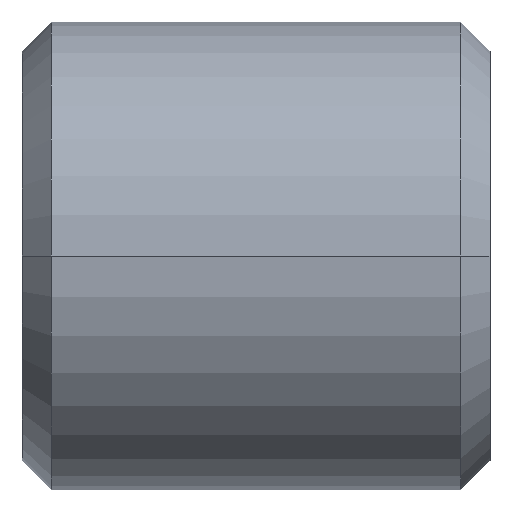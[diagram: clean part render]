
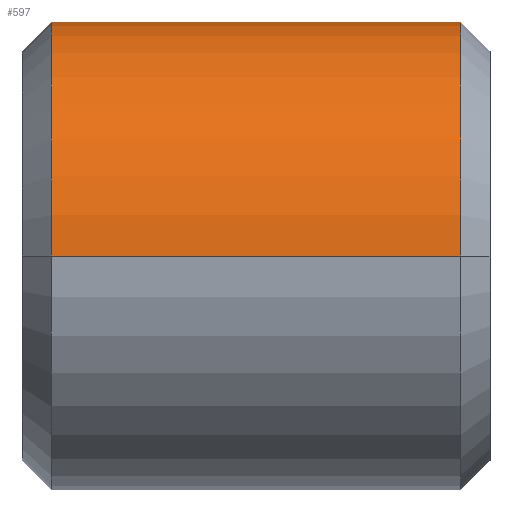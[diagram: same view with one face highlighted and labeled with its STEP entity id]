
A CAD part, front view. The second image highlights one B-rep face of the part: STEP entity #597.
In plain terms, the highlighted cylindrical face has radius 3.048 mm (diameter 6.096 mm), a partial arc.
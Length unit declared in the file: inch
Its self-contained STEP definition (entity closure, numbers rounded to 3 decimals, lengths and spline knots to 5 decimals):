
#3 = EDGE_CURVE ( 'NONE', #9, #67, #539, .T. ) ;
#9 = VERTEX_POINT ( 'NONE', #609 ) ;
#21 = ORIENTED_EDGE ( 'NONE', *, *, #576, .T. ) ;
#23 = AXIS2_PLACEMENT_3D ( 'NONE', #43, #438, #276 ) ;
#26 = EDGE_CURVE ( 'NONE', #528, #67, #500, .T. ) ;
#43 = CARTESIAN_POINT ( 'NONE',  ( 0.105, 0.12, 0. ) ) ;
#58 = CARTESIAN_POINT ( 'NONE',  ( 0.12, 0.12, 0.12 ) ) ;
#67 = VERTEX_POINT ( 'NONE', #449 ) ;
#159 = ORIENTED_EDGE ( 'NONE', *, *, #26, .F. ) ;
#189 = LINE ( 'NONE', #58, #281 ) ;
#211 = CIRCLE ( 'NONE', #23, 0.12 ) ;
#214 = DIRECTION ( 'NONE',  ( -1., 0., 0. ) ) ;
#231 = CARTESIAN_POINT ( 'NONE',  ( -0.105, 0.12, 0. ) ) ;
#258 = ORIENTED_EDGE ( 'NONE', *, *, #3, .T. ) ;
#276 = DIRECTION ( 'NONE',  ( 0., 0., 1. ) ) ;
#281 = VECTOR ( 'NONE', #607, 39.37008 ) ;
#302 = DIRECTION ( 'NONE',  ( 1., 0., 0. ) ) ;
#353 = ORIENTED_EDGE ( 'NONE', *, *, #370, .F. ) ;
#370 = EDGE_CURVE ( 'NONE', #9, #616, #189, .T. ) ;
#384 = AXIS2_PLACEMENT_3D ( 'NONE', #702, #214, #428 ) ;
#424 = AXIS2_PLACEMENT_3D ( 'NONE', #231, #302, #512 ) ;
#428 = DIRECTION ( 'NONE',  ( 0., 0., 1. ) ) ;
#438 = DIRECTION ( 'NONE',  ( -1., 0., 0. ) ) ;
#449 = CARTESIAN_POINT ( 'NONE',  ( -0.105, 0., 0. ) ) ;
#478 = CYLINDRICAL_SURFACE ( 'NONE', #384, 0.12 ) ;
#491 = EDGE_LOOP ( 'NONE', ( #353, #258, #159, #21 ) ) ;
#500 = LINE ( 'NONE', #669, #709 ) ;
#504 = DIRECTION ( 'NONE',  ( -1., 0., 0. ) ) ;
#512 = DIRECTION ( 'NONE',  ( 0., 0., -1. ) ) ;
#528 = VERTEX_POINT ( 'NONE', #648 ) ;
#534 = FACE_OUTER_BOUND ( 'NONE', #491, .T. ) ;
#539 = CIRCLE ( 'NONE', #424, 0.12 ) ;
#558 = CARTESIAN_POINT ( 'NONE',  ( 0.105, 0.12, 0.12 ) ) ;
#576 = EDGE_CURVE ( 'NONE', #528, #616, #211, .T. ) ;
#597 = ADVANCED_FACE ( 'NONE', ( #534 ), #478, .T. ) ;
#607 = DIRECTION ( 'NONE',  ( 1., 0., 0. ) ) ;
#609 = CARTESIAN_POINT ( 'NONE',  ( -0.105, 0.12, 0.12 ) ) ;
#616 = VERTEX_POINT ( 'NONE', #558 ) ;
#648 = CARTESIAN_POINT ( 'NONE',  ( 0.105, 0., 0. ) ) ;
#669 = CARTESIAN_POINT ( 'NONE',  ( -0.12, 0., 0. ) ) ;
#702 = CARTESIAN_POINT ( 'NONE',  ( -0.12, 0.12, 0. ) ) ;
#709 = VECTOR ( 'NONE', #504, 39.37008 ) ;
